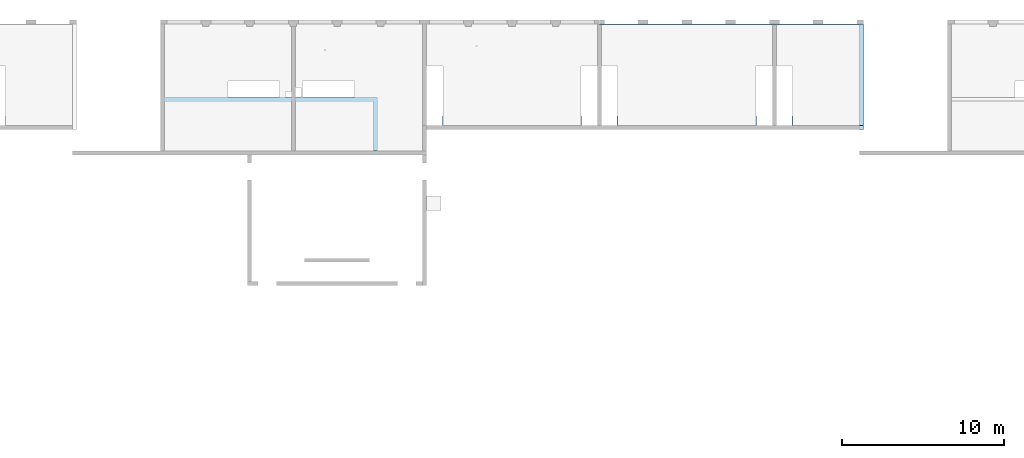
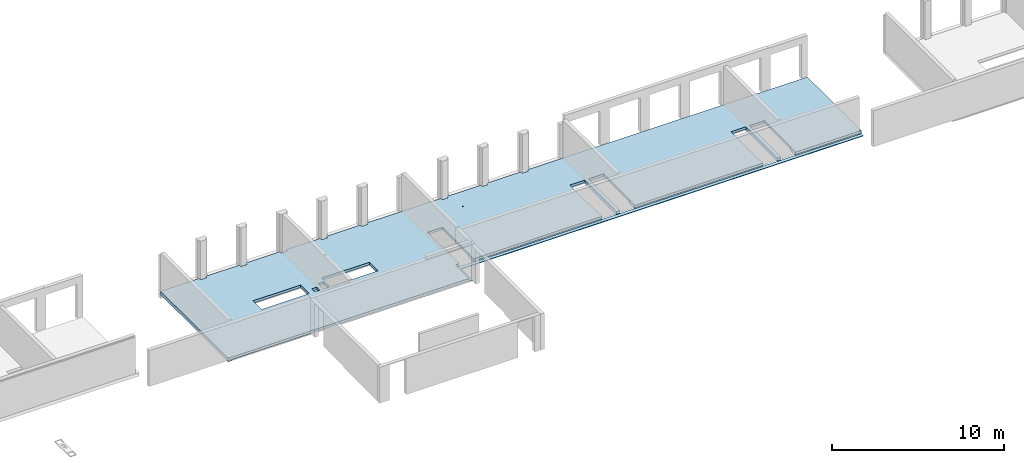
# One storey, part 10 of 12: 1 slab.
"""IFC2X3 building model written with IfcOpenShell, lengths in millimetres."""

import ifcopenshell
import ifcopenshell.guid

model = None  # the IFC model being written
_history = None  # IfcOwnerHistory: only IFC2X3 demands one
_inside = {}  # id of a spatial element -> (the spatial element, [elements in it])
_under = {}  # id of a project, library or spatial element -> (it, [spatial elements below it])
_declared = {}  # id of a project -> (the project, [libraries it declares])
_typed = {}  # id of a type object -> (the type object, [elements of that type])
_made_of = {}  # id of a material, layer set ... -> (it, [elements and type objects made of it])


def new_model(schema):
    """Start an empty IFC model of exactly this schema.

    Asked for "IFC4X3", IfcOpenShell would pick the latest addendum, in which some entities
    have other attributes; the version numbers below select the first issue.
    IFC2X3 requires an IfcOwnerHistory on every rooted entity: one is made here for all.
    """
    global model, _history
    if schema == "IFC4X3":
        model = ifcopenshell.file(schema_version=(4, 3, 0, 0))
    else:
        model = ifcopenshell.file(schema=schema)
    _inside.clear()
    _under.clear()
    _declared.clear()
    _typed.clear()
    _made_of.clear()
    _history = None
    if model.schema == "IFC2X3":
        org = make("IfcOrganization", Name="unknown")
        user = make(
            "IfcPersonAndOrganization",
            ThePerson=make("IfcPerson", FamilyName="unknown"),
            TheOrganization=org,
        )
        app = make(
            "IfcApplication",
            ApplicationDeveloper=org,
            Version="unknown",
            ApplicationFullName="unknown",
            ApplicationIdentifier="unknown",
        )
        _history = make(
            "IfcOwnerHistory",
            OwningUser=user,
            OwningApplication=app,
            ChangeAction="ADDED",
            CreationDate=0,
        )
    return model


def make(cls, **values):
    """One entity of the class cls with the attributes given. An attribute that is None is left unset."""
    return model.create_entity(
        cls, **{name: value for name, value in values.items() if value is not None}
    )


def entity(cls, *values):
    """Any entity or typed value of the class cls, its attributes in the order of the schema. None: left unset."""
    e = model.create_entity(cls)
    for i, value in enumerate(values):
        if value is not None:
            e[i] = value
    return e


def rooted(cls, **values):
    """An entity with a GlobalId (a new one), such as an element, a storey or a relation."""
    return make(cls, GlobalId=ifcopenshell.guid.new(), OwnerHistory=_history, **values)


def si_unit(unit_type, name, prefix=None):
    """IfcSIUnit, for example si_unit("LENGTHUNIT", "METRE", prefix="MILLI")."""
    return make("IfcSIUnit", UnitType=unit_type, Prefix=prefix, Name=name)


def converted_unit(unit_type, name, factor, base, dimensions=None, offset=None):
    """IfcConversionBasedUnit, such as the inch: factor (a typed value) times the base unit."""
    return make(
        "IfcConversionBasedUnit"
        if offset is None
        else "IfcConversionBasedUnitWithOffset",
        ConversionOffset=offset,
        Dimensions=None
        if dimensions is None
        else entity("IfcDimensionalExponents", *dimensions),
        UnitType=unit_type,
        Name=name,
        ConversionFactor=make(
            "IfcMeasureWithUnit", ValueComponent=factor, UnitComponent=base
        ),
    )


def derived_unit(unit_type, elements):
    """IfcDerivedUnit: a product of units, each with its exponent."""
    return make(
        "IfcDerivedUnit",
        Elements=[
            make("IfcDerivedUnitElement", Unit=unit, Exponent=power)
            for unit, power in elements
        ],
        UnitType=unit_type,
    )


def assignment(units):
    """IfcUnitAssignment: the units of a project."""
    return None if units is None else make("IfcUnitAssignment", Units=units)


def point(xyz):
    """IfcCartesianPoint."""
    return None if xyz is None else make("IfcCartesianPoint", Coordinates=xyz)


def direction(xyz):
    """IfcDirection."""
    return None if xyz is None else make("IfcDirection", DirectionRatios=xyz)


def frame(location, z_axis=None, x_axis=None):
    """IfcAxis2Placement3D, a coordinate frame: its origin and axes. An axis left out is left unset."""
    return make(
        "IfcAxis2Placement3D",
        Location=point(location),
        Axis=direction(z_axis),
        RefDirection=direction(x_axis),
    )


def origin():
    """The frame at (0, 0, 0) with its axes left unset."""
    return frame((0.0, 0.0, 0.0))


def place(relative_to, where):
    """IfcLocalPlacement: puts the frame where relative to a parent placement (None: the world)."""
    return make(
        "IfcLocalPlacement", PlacementRelTo=relative_to, RelativePlacement=where
    )


def context(
    kind, dimensions, precision=None, world=None, true_north=None, identifier=None
):
    """IfcGeometricRepresentationContext, for example the 3D "Model" context."""
    return make(
        "IfcGeometricRepresentationContext",
        ContextIdentifier=identifier,
        ContextType=kind,
        CoordinateSpaceDimension=dimensions,
        Precision=precision,
        WorldCoordinateSystem=world,
        TrueNorth=true_north,
    )


def subcontext(parent, identifier, kind, view, scale=None):
    """IfcGeometricRepresentationSubContext, for example "Body" below "Model"."""
    return make(
        "IfcGeometricRepresentationSubContext",
        ContextIdentifier=identifier,
        ContextType=kind,
        ParentContext=parent,
        TargetScale=scale,
        TargetView=view,
    )


def project(units=None, contexts=None):
    """IfcProject with its units and contexts."""
    return rooted(
        "IfcProject",
        Name="project",
        RepresentationContexts=contexts,
        UnitsInContext=assignment(units),
    )


def spatial(cls, under=None, at=None, **own):
    """A site, building, storey or space (cls), placed at a placement, below another one or the project."""
    s = rooted(cls, ObjectPlacement=at, **own)
    if under is not None:
        _under.setdefault(under.id(), (under, []))[1].append(s)
    return s


def faces_of(points, faces, orient=None, outer=None):
    """IfcFace entities. A face is a list of loops; a loop is a list of indices into points, from 0.

    orient and outer hold one flag for each loop. By default every Orientation is true, the
    first loop of a face is its IfcFaceOuterBound and the others are IfcFaceBound.
    """
    made = []
    for i, loops in enumerate(faces):
        bounds = []
        for j, loop in enumerate(loops):
            is_outer = j == 0 if outer is None else outer[i][j]
            bounds.append(
                make(
                    "IfcFaceOuterBound" if is_outer else "IfcFaceBound",
                    Bound=make("IfcPolyLoop", Polygon=[points[k] for k in loop]),
                    Orientation=True if orient is None else orient[i][j],
                )
            )
        made.append(make("IfcFace", Bounds=bounds))
    return made


def faceted_brep(points, faces, orient=None, outer=None, voids=None):
    """IfcFacetedBrep: a solid bounded by flat faces; with voids (closed shells), ...WithVoids."""
    shared = [point(p) for p in points]
    hull = make("IfcClosedShell", CfsFaces=faces_of(shared, faces, orient, outer))
    if voids is None:
        return make("IfcFacetedBrep", Outer=hull)
    return make(
        "IfcFacetedBrepWithVoids",
        Outer=hull,
        Voids=[
            make(cls, CfsFaces=faces_of(shared, fs, o, b)) for cls, fs, o, b in voids
        ],
    )


def shape(context_of_items, identifier, shape_type, items):
    """IfcShapeRepresentation: the items that make up one representation, for example the "Body"."""
    return make(
        "IfcShapeRepresentation",
        ContextOfItems=context_of_items,
        RepresentationIdentifier=identifier,
        RepresentationType=shape_type,
        Items=items,
    )


def made_of(thing, what):
    """Note that an element or type object is made of a material, layer set ...; save() writes the relation."""
    if what is not None:
        _made_of.setdefault(what.id(), (what, []))[1].append(thing)
    return thing


def element(
    cls,
    number,
    at=None,
    inside=None,
    cuts=None,
    type_object=None,
    material=None,
    context=None,
    identifier="Body",
    shape_type=None,
    held_by="IfcProductDefinitionShape",
    body=None,
    shapes=None,
    **own,
):
    """One element of the class cls, such as IfcWall. Its Tag is "e" and its number.

    at: its placement. inside: the storey or other place that contains it. cuts: it is an
    opening in that element (IfcRelVoidsElement). A single representation is given by context,
    identifier, shape_type and body (its items); several are given by shapes. held_by: the class
    of the entity that holds the representations. save() writes the other relations.
    """
    e = rooted(cls, Tag="e%d" % number, ObjectPlacement=at, **own)
    if body is not None:
        shapes = [shape(context, identifier, shape_type, body)]
    if shapes is not None:
        e.Representation = make(held_by, Representations=shapes)
    if inside is not None:
        _inside.setdefault(inside.id(), (inside, []))[1].append(e)
    if cuts is not None:
        rooted(
            "IfcRelVoidsElement", RelatingBuildingElement=cuts, RelatedOpeningElement=e
        )
    if type_object is not None:
        _typed.setdefault(type_object.id(), (type_object, []))[1].append(e)
    return made_of(e, material)


def aggregate(whole, parts):
    """IfcRelAggregates: a whole, such as a stair, and the parts it consists of."""
    return rooted("IfcRelAggregates", RelatingObject=whole, RelatedObjects=parts)


def save(model, path):
    """Write the relations noted so far, then the file.

    IfcRelAggregates (storeys below a building ...), IfcRelContainedInSpatialStructure (elements
    in a storey), IfcRelDefinesByType, IfcRelAssociatesMaterial and IfcRelDeclares: one each for
    every whole, place, type object, material and project.
    """
    for whole, parts in _under.values():
        aggregate(whole, parts)
    for where, things in _inside.values():
        rooted(
            "IfcRelContainedInSpatialStructure",
            RelatedElements=things,
            RelatingStructure=where,
        )
    for kind, things in _typed.values():
        rooted("IfcRelDefinesByType", RelatedObjects=things, RelatingType=kind)
    for what, things in _made_of.values():
        rooted("IfcRelAssociatesMaterial", RelatedObjects=things, RelatingMaterial=what)
    for by, libraries in _declared.values():
        rooted("IfcRelDeclares", RelatingContext=by, RelatedDefinitions=libraries)
    model.write(path)


model = new_model("IFC2X3")

# Units and contexts
model_context = context("Model", 3, precision=0.01, world=origin(), true_north=direction((6.12303176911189e-17, 1.0)))
body_context = subcontext(model_context, "Body", "Model", "MODEL_VIEW")
ifc_project = project(units=[si_unit("LENGTHUNIT", "METRE", prefix="MILLI"), si_unit("AREAUNIT", "SQUARE_METRE"), si_unit("VOLUMEUNIT", "CUBIC_METRE"), converted_unit("PLANEANGLEUNIT", "DEGREE", entity("IfcRatioMeasure", 0.0174532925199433), si_unit("PLANEANGLEUNIT", "RADIAN"), dimensions=[0, 0, 0, 0, 0, 0, 0]), si_unit("MASSUNIT", "GRAM", prefix="KILO"), derived_unit("MASSDENSITYUNIT", [(si_unit("MASSUNIT", "GRAM", prefix="KILO"), 1), (si_unit("LENGTHUNIT", "METRE"), -3)]), si_unit("TIMEUNIT", "SECOND"), si_unit("FREQUENCYUNIT", "HERTZ"), si_unit("THERMODYNAMICTEMPERATUREUNIT", "DEGREE_CELSIUS"), derived_unit("THERMALTRANSMITTANCEUNIT", [(si_unit("MASSUNIT", "GRAM", prefix="KILO"), 1), (si_unit("THERMODYNAMICTEMPERATUREUNIT", "KELVIN"), -1), (si_unit("TIMEUNIT", "SECOND"), -3)]), derived_unit("VOLUMETRICFLOWRATEUNIT", [(si_unit("LENGTHUNIT", "METRE"), 3), (si_unit("TIMEUNIT", "SECOND"), -1)]), si_unit("ELECTRICCURRENTUNIT", "AMPERE"), si_unit("ELECTRICVOLTAGEUNIT", "VOLT"), si_unit("POWERUNIT", "WATT"), si_unit("FORCEUNIT", "NEWTON", prefix="KILO"), si_unit("ILLUMINANCEUNIT", "LUX"), si_unit("LUMINOUSFLUXUNIT", "LUMEN"), si_unit("LUMINOUSINTENSITYUNIT", "CANDELA"), derived_unit("USERDEFINED", [(si_unit("MASSUNIT", "GRAM", prefix="KILO"), -1), (si_unit("LENGTHUNIT", "METRE"), -2), (si_unit("TIMEUNIT", "SECOND"), 3), (si_unit("LUMINOUSFLUXUNIT", "LUMEN"), 1)]), derived_unit("LINEARVELOCITYUNIT", [(si_unit("LENGTHUNIT", "METRE"), 1), (si_unit("TIMEUNIT", "SECOND"), -1)]), si_unit("PRESSUREUNIT", "PASCAL"), derived_unit("USERDEFINED", [(si_unit("LENGTHUNIT", "METRE"), -2), (si_unit("MASSUNIT", "GRAM", prefix="KILO"), 1), (si_unit("TIMEUNIT", "SECOND"), -2)])], contexts=[model_context])

# Site, building, storey
site_placement = place(None, origin())
site = spatial("IfcSite", under=ifc_project, at=site_placement, Name="Default", CompositionType="ELEMENT")
building_placement = place(site_placement, origin())
building = spatial("IfcBuilding", under=site, at=building_placement, Name="niet gebruiken", CompositionType="ELEMENT")
storey_placement = place(building_placement, frame((0.0, 0.0, 6660.0)))
storey = spatial("IfcBuildingStorey", under=building, at=storey_placement, Name="02 tweede verdieping", CompositionType="ELEMENT", Elevation=6660.00000000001)

# Slab
slab_placement = place(storey_placement, origin())
element("IfcSlab", 1, at=slab_placement, inside=storey, Name="Floor:NLRS_23.21_FL_breedplaat d=70/250_schil apart_gen", ObjectType="Floor:NLRS_23.21_FL_breedplaat d=70/250_schil apart_gen", PredefinedType="FLOOR", context=body_context, shape_type="Brep", body=[
    faceted_brep([(40605.0, 52846.0, -340.0), (40605.0, 48826.0, -340.0), (40625.0, 48826.0, -340.0), (40625.0, 48476.0, -340.0), (40975.0, 48476.0, -340.0), (40975.0, 48456.0, -340.0), (41075.0, 48456.0, -340.0), (41075.0, 48476.0, -340.0), (44275.0, 48476.0, -340.0), (44275.0, 48456.0, -340.0), (45655.0, 48456.0, -340.0), (45655.0, 45156.0, -340.0), (45445.0, 45156.0, -340.0), (45445.0, 48246.0, -340.0), (32530.0, 48246.0, -340.0), (32530.0, 45156.0, -340.0), (32300.0, 45156.0, -340.0), (32300.0, 53006.0, -340.0), (32530.0, 53006.0, -340.0), (32530.0, 48456.0, -340.0), (36455.0, 48456.0, -340.0), (36455.0, 48476.0, -340.0), (39655.0, 48476.0, -340.0), (39655.0, 48456.0, -340.0), (40025.0, 48456.0, -340.0), (40025.0, 48476.0, -340.0), (40375.0, 48476.0, -340.0), (40375.0, 48826.0, -340.0), (40395.0, 48826.0, -340.0), (40395.0, 52846.0, -340.0), (75700.0, 53006.0, -340.0), (75700.0, 52986.0, -340.0), (75470.0, 52986.0, -340.0), (70305.0, 52986.0, -340.0), (70095.0, 52986.0, -340.0), (59380.0, 53006.0, -340.0), (75470.0, 46726.0, -340.0), (75700.0, 46496.0, -340.0), (75450.0, 46496.0, -340.0), (71325.0, 46726.0, -340.0), (69075.0, 46726.0, -340.0), (60525.0, 46726.0, -340.0), (48725.0, 46496.0, -340.0), (58275.0, 46726.0, -340.0), (49725.0, 46726.0, -340.0), (49695.0, 46746.0, -340.0), (48725.0, 46746.0, -340.0), (48495.0, 45156.0, -340.0), (48725.0, 45156.0, -340.0), (48705.0, 50426.0, -340.0), (48495.0, 53006.0, -340.0), (48600.0, 53006.0, -340.0), (48705.0, 53006.0, -340.0), (48725.0, 50426.0, -340.0), (49725.0, 47326.0, -340.0), (49695.0, 47326.0, -340.0), (59275.0, 46746.0, -340.0), (58305.0, 46746.0, -340.0), (58275.0, 47326.0, -340.0), (58305.0, 47326.0, -340.0), (59525.0, 46746.0, -340.0), (59295.0, 50426.0, -340.0), (59275.0, 50426.0, -340.0), (59505.0, 50426.0, -340.0), (59505.0, 52986.0, -340.0), (59295.0, 53006.0, -340.0), (59525.0, 50426.0, -340.0), (60495.0, 46746.0, -340.0), (60525.0, 47326.0, -340.0), (60495.0, 47326.0, -340.0), (70075.0, 46746.0, -340.0), (69105.0, 46746.0, -340.0), (69075.0, 47326.0, -340.0), (69105.0, 47326.0, -340.0), (70325.0, 46746.0, -340.0), (70305.0, 50426.0, -340.0), (70095.0, 50426.0, -340.0), (70075.0, 50426.0, -340.0), (70325.0, 50426.0, -340.0), (71295.0, 46746.0, -340.0), (71325.0, 47326.0, -340.0), (71295.0, 47326.0, -340.0), (45655.0, 45156.0, -270.0), (48474.9998491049, 45156.0, -270.0), (48474.9998491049, 45156.0, -140.0), (48474.9998491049, 45156.0, -90.0), (32300.0, 45156.0, -90.0), (32530.0, 45156.0, -300.0), (32530.0, 45156.0, -270.0), (37674.9998491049, 45156.0, -270.0), (40924.9998491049, 45156.0, -270.0), (45445.0, 45156.0, -270.0), (48725.0, 45156.0, -300.0), (48705.0, 45156.0, -300.0), (48495.0, 45156.0, -300.0), (71325.0, 46746.0, -270.0), (75470.0, 46746.0, -270.0), (75470.0, 46746.0, -300.0), (75700.0, 46746.0, -300.0), (75700.0, 46746.0, -90.0), (74640.0, 46746.0, -90.0), (74440.0, 46746.0, -90.0), (71295.0, 46746.0, -90.0), (71295.0, 46746.0, -300.0), (71325.0, 46746.0, -300.0), (70075.0, 46746.0, -90.0), (70075.0, 46746.0, -300.0), (70325.0, 46746.0, -300.0), (70325.0, 46746.0, -90.0), (60525.0, 46746.0, -300.0), (60525.0, 46746.0, -270.0), (69075.0, 46746.0, -270.0), (69075.0, 46746.0, -300.0), (69105.0, 46746.0, -300.0), (69105.0, 46746.0, -90.0), (65935.0, 46746.0, -90.0), (65735.0, 46746.0, -90.0), (63865.0, 46746.0, -90.0), (63665.0, 46746.0, -90.0), (60495.0, 46746.0, -90.0), (60495.0, 46746.0, -300.0), (59275.0, 46746.0, -90.0), (59275.0, 46746.0, -300.0), (59525.0, 46746.0, -300.0), (59525.0, 46746.0, -90.0), (49725.0, 46746.0, -300.0), (49725.0, 46746.0, -270.0), (58275.0, 46746.0, -270.0), (58275.0, 46746.0, -300.0), (58305.0, 46746.0, -300.0), (58305.0, 46746.0, -90.0), (55135.0, 46746.0, -90.0), (54935.0, 46746.0, -90.0), (53065.0, 46746.0, -90.0), (52865.0, 46746.0, -90.0), (49695.0, 46746.0, -90.0), (49695.0, 46746.0, -300.0), (48495.0, 46746.0, -300.0), (48725.0, 46746.0, -300.0), (48725.0, 46746.0, -90.0), (48474.9998491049, 46746.0, -90.0), (48474.9998491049, 46746.0, -270.0), (48495.0, 46746.0, -270.0), (71325.0, 47326.0, -90.0), (71325.0, 50426.0, -90.0), (60525.0, 50426.0, -90.0), (69075.0, 50426.0, -90.0), (60525.0, 47326.0, -90.0), (69075.0, 47326.0, -90.0), (75700.0, 52986.0, -90.0), (70325.0, 50426.0, -90.0), (71295.0, 47326.0, -90.0), (69105.0, 47326.0, -90.0), (59525.0, 50426.0, -90.0), (59275.0, 50426.0, -90.0), (60495.0, 47326.0, -90.0), (70075.0, 50426.0, -90.0), (54205.0, 52846.0, -90.0), (58275.0, 47326.0, -90.0), (58275.0, 50426.0, -90.0), (58305.0, 47326.0, -90.0), (51818.7499999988, 51623.5240473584, -90.0), (49725.0, 47326.0, -90.0), (49695.0, 47326.0, -90.0), (49725.0, 50426.0, -90.0), (48725.0, 50426.0, -90.0), (40375.0, 48476.0, -90.0), (40625.0, 48476.0, -90.0), (39655.0, 48476.0, -90.0), (40025.0, 48476.0, -90.0), (40025.0, 48826.0, -90.0), (36455.0, 48476.0, -90.0), (44275.0, 48476.0, -90.0), (36455.0, 49476.0, -90.0), (40975.0, 49083.0, -90.0), (41075.0, 48476.0, -90.0), (41075.0, 49476.0, -90.0), (40975.0, 48476.0, -90.0), (44275.0, 49476.0, -90.0), (48600.0, 53006.0, -90.0), (42468.7499999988, 51373.5240473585, -90.0), (40295.0, 52846.0, -90.0), (39655.0, 49476.0, -90.0), (40625.0, 49083.0, -90.0), (40375.0, 48826.0, -90.0), (38005.0, 52846.0, -90.0), (46105.0, 52846.0, -90.0), (32300.0, 53006.0, -90.0), (59380.0, 53006.0, -90.0), (56495.0, 52846.0, -90.0), (75700.0, 53006.0, -90.0), (53795.0, 52846.0, -90.0), (51837.4999999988, 51656.0, -90.0), (51833.7878063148, 51649.5702919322, -90.0), (51809.3749999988, 51623.5240473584, -90.0), (51505.0, 52846.0, -90.0), (51781.2499999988, 51688.4759526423, -90.0), (51790.6249999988, 51688.4759526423, -90.0), (51095.0, 52846.0, -90.0), (51762.4999999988, 51656.0, -90.0), (51766.2121936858, 51662.4297080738, -90.0), (51818.7499999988, 51688.4759526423, -90.0), (51823.4374999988, 51680.3569644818, -90.0), (51781.2499999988, 51623.5240473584, -90.0), (51776.5624999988, 51631.6430355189, -90.0), (56905.0, 52846.0, -90.0), (56905.0, 53006.0, -90.0), (56495.0, 53006.0, -90.0), (54205.0, 53006.0, -90.0), (53795.0, 53006.0, -90.0), (51505.0, 53006.0, -90.0), (51095.0, 53006.0, -90.0), (42487.4999999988, 51406.0, -90.0), (42483.7878063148, 51399.5702919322, -90.0), (43405.0, 52846.0, -90.0), (42468.7499999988, 51438.4759526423, -90.0), (42473.4374999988, 51430.3569644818, -90.0), (42995.0, 52846.0, -90.0), (45695.0, 52846.0, -90.0), (45695.0, 53006.0, -90.0), (42431.2499999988, 51438.4759526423, -90.0), (42440.6249999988, 51438.4759526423, -90.0), (40705.0, 52846.0, -90.0), (42412.4999999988, 51406.0, -90.0), (42416.2121936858, 51412.4297080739, -90.0), (37595.0, 52846.0, -90.0), (40295.0, 53006.0, -90.0), (35305.0, 52846.0, -90.0), (42995.0, 53006.0, -90.0), (42459.3749999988, 51373.5240473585, -90.0), (43405.0, 53006.0, -90.0), (40705.0, 53006.0, -90.0), (38005.0, 53006.0, -90.0), (37595.0, 53006.0, -90.0), (34895.0, 52846.0, -90.0), (34895.0, 53006.0, -90.0), (35305.0, 53006.0, -90.0), (46105.0, 53006.0, -90.0), (42431.2499999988, 51373.5240473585, -90.0), (42426.5624999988, 51381.643035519, -90.0), (51828.1249999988, 51639.7620236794, -90.0), (51823.4374999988, 51631.6430355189, -90.0), (51800.0, 51623.5240473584, -90.0), (51790.6249999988, 51623.5240473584, -90.0), (51800.0, 51688.4759526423, -90.0), (51809.3749999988, 51688.4759526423, -90.0), (51769.9243873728, 51668.8594161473, -90.0), (51775.5871936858, 51678.6676843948, -90.0), (51828.1249999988, 51672.2379763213, -90.0), (51832.8124999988, 51664.1189881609, -90.0), (51771.8749999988, 51639.7620236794, -90.0), (51767.1874999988, 51647.8810118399, -90.0), (42478.1249999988, 51389.7620236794, -90.0), (42473.4374999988, 51381.643035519, -90.0), (42478.1249999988, 51422.2379763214, -90.0), (42482.8124999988, 51414.1189881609, -90.0), (42450.0, 51438.4759526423, -90.0), (42459.3749999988, 51438.4759526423, -90.0), (42419.9243873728, 51418.8594161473, -90.0), (42425.5871936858, 51428.6676843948, -90.0), (42450.0, 51373.5240473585, -90.0), (42440.6249999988, 51373.5240473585, -90.0), (42421.8749999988, 51389.7620236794, -90.0), (42417.1874999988, 51397.8810118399, -90.0), (32530.0, 53006.0, -270.0), (34895.0, 53006.0, -270.0), (37595.0, 53006.0, -270.0), (35305.0, 53006.0, -270.0), (40295.0, 53006.0, -270.0), (38005.0, 53006.0, -270.0), (42995.0, 53006.0, -270.0), (40705.0, 53006.0, -270.0), (45695.0, 53006.0, -270.0), (43405.0, 53006.0, -270.0), (48495.0, 53006.0, -270.0), (46105.0, 53006.0, -270.0), (51095.0, 53006.0, -270.0), (48705.0, 53006.0, -270.0), (53795.0, 53006.0, -270.0), (51505.0, 53006.0, -270.0), (56495.0, 53006.0, -270.0), (54205.0, 53006.0, -270.0), (59295.0, 53006.0, -270.0), (56905.0, 53006.0, -270.0), (48725.0, 46496.0, -300.0), (48725.0, 46056.0, -300.0), (48725.0, 50426.0, -270.0), (34895.0, 52846.0, -270.0), (35305.0, 52846.0, -270.0), (38005.0, 52846.0, -270.0), (37595.0, 52846.0, -270.0), (40605.0, 52846.0, -270.0), (40395.0, 52846.0, -270.0), (40295.0, 52846.0, -270.0), (40705.0, 52846.0, -270.0), (43405.0, 52846.0, -270.0), (42995.0, 52846.0, -270.0), (46105.0, 52846.0, -270.0), (45695.0, 52846.0, -270.0), (51505.0, 52846.0, -270.0), (51095.0, 52846.0, -270.0), (54205.0, 52846.0, -270.0), (53795.0, 52846.0, -270.0), (56905.0, 52846.0, -270.0), (56495.0, 52846.0, -270.0), (75700.0, 46496.0, -300.0), (36455.0, 49476.0, -270.0), (39655.0, 49476.0, -270.0), (41075.0, 49476.0, -270.0), (44275.0, 49476.0, -270.0), (39655.0, 48476.0, -270.0), (36455.0, 48476.0, -270.0), (44275.0, 48476.0, -270.0), (41075.0, 48476.0, -270.0), (40025.0, 48476.0, -270.0), (40975.0, 48476.0, -270.0), (59275.0, 50426.0, -270.0), (59525.0, 50426.0, -270.0), (70075.0, 50426.0, -270.0), (70325.0, 50426.0, -270.0), (49725.0, 50426.0, -270.0), (60525.0, 50426.0, -270.0), (58275.0, 50426.0, -270.0), (71325.0, 50426.0, -270.0), (69075.0, 50426.0, -270.0), (49725.0, 47326.0, -270.0), (60525.0, 47326.0, -270.0), (58275.0, 47326.0, -270.0), (71325.0, 47326.0, -270.0), (69075.0, 47326.0, -270.0), (40025.0, 48826.0, -270.0), (40375.0, 48826.0, -270.0), (51818.7499999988, 51623.5240473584, -270.0), (51823.4374999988, 51631.6430355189, -270.0), (51809.3749999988, 51623.5240473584, -270.0), (51828.1249999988, 51639.7620236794, -270.0), (51832.8124999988, 51647.8810118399, -270.0), (51837.4999999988, 51656.0, -270.0), (51833.7878062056, 51662.4297082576, -270.0), (51830.0756124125, 51668.8594165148, -270.0), (51824.4128062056, 51678.6676845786, -270.0), (51818.7499999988, 51688.4759526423, -270.0), (51809.3749999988, 51688.4759526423, -270.0), (51800.0, 51688.4759526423, -270.0), (51790.6249999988, 51688.4759526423, -270.0), (51781.2499999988, 51688.4759526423, -270.0), (51776.5624999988, 51680.3569644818, -270.0), (51771.8749999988, 51672.2379763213, -270.0), (51767.1874999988, 51664.1189881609, -270.0), (51762.4999999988, 51656.0, -270.0), (51766.2121936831, 51649.5702919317, -270.0), (51769.9243873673, 51643.140583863, -270.0), (51775.5871936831, 51633.3323156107, -270.0), (51781.2499999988, 51623.5240473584, -270.0), (51790.6249999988, 51623.5240473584, -270.0), (51800.0, 51623.5240473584, -270.0), (48705.0, 50426.0, -270.0), (59295.0, 50426.0, -270.0), (59505.0, 50426.0, -270.0), (59505.0, 52986.0, -270.0), (70095.0, 52986.0, -270.0), (70095.0, 50426.0, -270.0), (70305.0, 50426.0, -270.0), (70305.0, 52986.0, -270.0), (75470.0, 52986.0, -270.0), (39655.0, 48456.0, -270.0), (36455.0, 48456.0, -270.0), (32530.0, 48456.0, -270.0), (40395.0, 48826.0, -270.0), (40025.0, 48456.0, -270.0), (45655.0, 48456.0, -270.0), (44275.0, 48456.0, -270.0), (42487.4999999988, 51406.0, -270.0), (42482.8124999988, 51397.8810118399, -270.0), (42478.1249999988, 51389.7620236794, -270.0), (42473.4374999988, 51381.643035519, -270.0), (42468.7499999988, 51373.5240473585, -270.0), (42459.3749999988, 51373.5240473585, -270.0), (42450.0, 51373.5240473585, -270.0), (42440.6249999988, 51373.5240473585, -270.0), (42431.2499999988, 51373.5240473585, -270.0), (42425.5871936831, 51383.3323156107, -270.0), (42419.9243873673, 51393.140583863, -270.0), (42416.212193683, 51399.5702919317, -270.0), (42412.4999999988, 51406.0, -270.0), (40625.0, 49083.0, -270.0), (40975.0, 49083.0, -270.0), (41075.0, 48456.0, -270.0), (40975.0, 48456.0, -270.0), (40605.0, 48826.0, -270.0), (40625.0, 48826.0, -270.0), (42417.1874999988, 51414.1189881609, -270.0), (42421.8749999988, 51422.2379763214, -270.0), (42426.5624999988, 51430.3569644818, -270.0), (42431.2499999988, 51438.4759526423, -270.0), (42468.7499999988, 51438.4759526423, -270.0), (42459.3749999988, 51438.4759526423, -270.0), (42450.0, 51438.4759526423, -270.0), (42440.6249999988, 51438.4759526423, -270.0), (42483.7878062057, 51412.4297082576, -270.0), (42480.0756124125, 51418.8594165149, -270.0), (42474.4128062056, 51428.6676845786, -270.0), (32530.0, 48246.0, -270.0), (45445.0, 48246.0, -270.0), (49725.0, 46726.0, -300.0), (58275.0, 46726.0, -300.0), (69075.0, 46726.0, -300.0), (60525.0, 46726.0, -300.0), (75470.0, 46726.0, -300.0), (71325.0, 46726.0, -300.0)], [[[0, 1, 2, 3, 4, 5, 6, 7, 8, 9, 10, 11, 12, 13, 14, 15, 16, 17, 18, 19, 20, 21, 22, 23, 24, 25, 26, 27, 28, 29]], [[0, 1, 29]], [[29, 1, 28]], [[28, 1, 26]], [[1, 3, 26]], [[2, 3, 1]], [[26, 3, 5]], [[5, 3, 4]], [[26, 5, 24]], [[13, 24, 5]], [[13, 5, 6]], [[9, 13, 6]], [[8, 9, 6]], [[7, 8, 6]], [[13, 9, 10]], [[10, 11, 13]], [[12, 13, 11]], [[24, 13, 23]], [[23, 13, 14]], [[23, 14, 20]], [[14, 19, 20]], [[19, 14, 16]], [[15, 16, 14]], [[19, 16, 17]], [[18, 19, 17]], [[22, 23, 20]], [[20, 21, 22]], [[24, 25, 26]], [[27, 28, 26]], [[30, 31, 32]], [[30, 32, 33]], [[33, 34, 30]], [[30, 34, 35]], [[32, 31, 36]], [[37, 36, 31]], [[36, 37, 38]], [[36, 38, 39]], [[40, 39, 38]], [[41, 40, 38]], [[41, 38, 42]], [[42, 43, 41]], [[43, 42, 44]], [[45, 44, 42]], [[42, 46, 45]], [[46, 42, 47]], [[48, 47, 42]], [[46, 47, 49]], [[50, 49, 47]], [[50, 51, 49]], [[49, 51, 52]], [[46, 49, 53]], [[54, 44, 45]], [[55, 54, 45]], [[41, 43, 56]], [[56, 43, 57]], [[58, 57, 43]], [[57, 58, 59]], [[60, 41, 56]], [[61, 60, 56]], [[56, 62, 61]], [[63, 60, 61]], [[63, 61, 64]], [[61, 65, 64]], [[65, 35, 64]], [[64, 35, 34]], [[60, 63, 66]], [[67, 41, 60]], [[41, 67, 68]], [[68, 67, 69]], [[40, 70, 39]], [[71, 70, 40]], [[71, 40, 72]], [[72, 73, 71]], [[74, 39, 70]], [[70, 75, 74]], [[70, 76, 75]], [[77, 76, 70]], [[75, 76, 34]], [[34, 33, 75]], [[75, 78, 74]], [[74, 79, 39]], [[80, 39, 79]], [[79, 81, 80]], [[12, 11, 82, 83, 84, 85, 86, 16, 15, 87, 88, 89, 90, 91]], [[47, 48, 92, 93, 94]], [[95, 96, 97, 98, 99, 100, 101, 102, 103, 104]], [[105, 106, 107, 108]], [[109, 110, 111, 112, 113, 114, 115, 116, 117, 118, 119, 120]], [[121, 122, 123, 124]], [[125, 126, 127, 128, 129, 130, 131, 132, 133, 134, 135, 136]], [[137, 138, 139, 140, 141, 142]], [[102, 101, 143]], [[144, 143, 101]], [[145, 118, 117]], [[117, 116, 146]], [[147, 119, 118]], [[118, 145, 147]], [[148, 115, 114]], [[149, 101, 100]], [[108, 150, 105]], [[151, 102, 143]], [[152, 148, 114]], [[146, 116, 115]], [[121, 153, 154]], [[148, 146, 115]], [[155, 119, 147]], [[150, 156, 105]], [[121, 124, 153]], [[132, 131, 157]], [[158, 131, 130]], [[158, 159, 131]], [[157, 131, 159]], [[160, 158, 130]], [[161, 133, 132]], [[149, 100, 99]], [[162, 135, 134]], [[162, 163, 135]], [[161, 164, 134]], [[140, 139, 165]], [[164, 162, 134]], [[166, 86, 85]], [[167, 166, 85]], [[168, 169, 170]], [[166, 169, 86]], [[168, 171, 86]], [[169, 168, 86]], [[172, 85, 140]], [[86, 171, 173]], [[174, 175, 176]], [[172, 175, 85]], [[175, 174, 177]], [[165, 178, 172]], [[179, 165, 164]], [[180, 176, 178]], [[176, 181, 182]], [[172, 140, 165]], [[174, 176, 183]], [[177, 167, 85]], [[182, 168, 170]], [[183, 182, 170]], [[183, 184, 167]], [[185, 173, 182]], [[183, 176, 182]], [[170, 184, 183]], [[166, 167, 184]], [[165, 186, 178]], [[175, 177, 85]], [[161, 134, 133]], [[86, 173, 187]], [[188, 159, 154]], [[117, 146, 145]], [[188, 153, 145]], [[159, 189, 157]], [[190, 156, 150]], [[190, 146, 156]], [[188, 145, 146]], [[191, 192, 193]], [[164, 161, 194]], [[195, 196, 197]], [[198, 199, 200]], [[157, 191, 161]], [[191, 201, 202]], [[132, 157, 161]], [[198, 164, 199]], [[150, 144, 190]], [[164, 203, 204]], [[189, 159, 205]], [[144, 149, 190]], [[159, 188, 205]], [[206, 205, 188]], [[146, 190, 188]], [[189, 207, 208]], [[209, 195, 191]], [[195, 198, 196]], [[191, 195, 201]], [[209, 210, 195]], [[198, 211, 179]], [[208, 157, 189]], [[144, 101, 149]], [[198, 179, 164]], [[178, 212, 213]], [[214, 215, 216]], [[214, 212, 178]], [[217, 215, 214]], [[218, 219, 214]], [[214, 178, 218]], [[218, 178, 186]], [[217, 220, 221]], [[222, 223, 224]], [[222, 176, 223]], [[185, 182, 181]], [[173, 185, 225]], [[181, 226, 185]], [[222, 181, 176]], [[220, 217, 222]], [[225, 227, 173]], [[217, 228, 222]], [[176, 180, 229]], [[214, 219, 230]], [[228, 231, 222]], [[226, 232, 185]], [[227, 225, 233]], [[234, 173, 227]], [[187, 234, 235]], [[227, 233, 236]], [[187, 173, 234]], [[237, 186, 179]], [[179, 186, 165]], [[176, 238, 239]], [[188, 154, 153]], [[191, 193, 240]], [[191, 240, 241]], [[191, 241, 161]], [[164, 194, 242]], [[164, 242, 243]], [[164, 243, 203]], [[195, 197, 244]], [[195, 244, 245]], [[195, 245, 201]], [[198, 200, 246]], [[198, 246, 247]], [[198, 247, 196]], [[191, 202, 248]], [[191, 248, 249]], [[191, 249, 192]], [[164, 204, 250]], [[164, 250, 251]], [[164, 251, 199]], [[178, 213, 252]], [[178, 252, 253]], [[178, 253, 180]], [[214, 216, 254]], [[214, 254, 255]], [[214, 255, 212]], [[217, 221, 256]], [[217, 256, 257]], [[217, 257, 215]], [[222, 224, 258]], [[222, 258, 259]], [[222, 259, 220]], [[176, 229, 260]], [[176, 260, 261]], [[176, 261, 238]], [[176, 239, 262]], [[176, 262, 263]], [[176, 263, 223]], [[17, 16, 86, 187]], [[264, 18, 17, 187, 235, 265]], [[266, 267, 236, 233]], [[268, 269, 232, 226]], [[270, 271, 231, 228]], [[272, 273, 230, 219]], [[274, 275, 237, 179, 211, 276, 277, 52, 51, 50]], [[278, 279, 210, 209]], [[280, 281, 208, 207]], [[35, 65, 282, 283, 206, 188, 190, 30]], [[48, 42, 284, 285, 92]], [[165, 139, 138, 46, 53, 286]], [[287, 265, 235, 234]], [[288, 287, 234, 227]], [[289, 290, 225, 185]], [[291, 0, 29, 292, 293, 181, 222, 294]], [[295, 296, 217, 214]], [[297, 298, 218, 186]], [[299, 300, 198, 195]], [[301, 302, 191, 157]], [[303, 304, 189, 205]], [[267, 288, 227, 236]], [[290, 266, 233, 225]], [[269, 289, 185, 232]], [[293, 268, 226, 181]], [[271, 294, 222, 231]], [[296, 270, 228, 217]], [[273, 295, 214, 230]], [[298, 272, 219, 218]], [[275, 297, 186, 237]], [[300, 276, 211, 198]], [[279, 299, 195, 210]], [[302, 278, 209, 191]], [[281, 301, 157, 208]], [[304, 280, 207, 189]], [[283, 303, 205, 206]], [[98, 305, 37, 31, 30, 190, 149, 99]], [[38, 37, 305, 284, 42]], [[182, 173, 306, 307]], [[178, 176, 308, 309]], [[168, 182, 307, 310]], [[171, 168, 310, 22, 21, 311]], [[175, 172, 312, 8, 7, 313]], [[314, 169, 166, 26, 25]], [[167, 177, 315, 4, 3]], [[173, 171, 311, 306]], [[172, 178, 309, 312]], [[176, 175, 313, 308]], [[135, 163, 55, 45, 136]], [[138, 136, 45, 46]], [[129, 122, 56, 57]], [[123, 120, 67, 60]], [[113, 106, 70, 71]], [[107, 103, 79, 74]], [[121, 154, 316, 62, 56, 122]], [[160, 130, 129, 57, 59]], [[119, 155, 69, 67, 120]], [[153, 124, 123, 60, 66, 317]], [[105, 156, 318, 77, 70, 106]], [[152, 114, 113, 71, 73]], [[102, 151, 81, 79, 103]], [[150, 108, 107, 74, 78, 319]], [[286, 320, 164, 165]], [[317, 321, 145, 153]], [[322, 316, 154, 159]], [[319, 323, 144, 150]], [[324, 318, 156, 146]], [[325, 54, 55, 163, 162]], [[326, 68, 69, 155, 147]], [[327, 158, 160, 59, 58]], [[328, 80, 81, 151, 143]], [[329, 148, 152, 73, 72]], [[320, 325, 162, 164]], [[321, 326, 147, 145]], [[322, 159, 158, 327]], [[323, 328, 143, 144]], [[324, 146, 148, 329]], [[330, 331, 184, 170]], [[330, 170, 169, 314]], [[331, 27, 26, 166, 184]], [[332, 322, 327]], [[301, 322, 332]], [[332, 327, 325]], [[320, 332, 325]], [[301, 332, 302]], [[302, 332, 333]], [[320, 334, 332]], [[302, 333, 335]], [[302, 335, 336]], [[302, 336, 337]], [[302, 337, 338]], [[302, 338, 339]], [[302, 339, 340]], [[302, 340, 341]], [[299, 302, 341]], [[299, 341, 342]], [[299, 342, 343]], [[299, 343, 344]], [[299, 344, 345]], [[345, 300, 299]], [[300, 345, 346]], [[300, 346, 347]], [[300, 347, 348]], [[300, 348, 349]], [[300, 349, 320]], [[320, 349, 350]], [[320, 350, 351]], [[320, 351, 352]], [[320, 352, 353]], [[320, 353, 354]], [[320, 354, 355]], [[320, 355, 334]], [[320, 277, 300]], [[277, 320, 286]], [[286, 356, 277]], [[276, 300, 277]], [[278, 302, 299]], [[299, 279, 278]], [[304, 322, 301]], [[304, 301, 281]], [[304, 281, 280]], [[304, 303, 322]], [[282, 322, 303]], [[282, 303, 283]], [[316, 322, 282]], [[282, 357, 316]], [[325, 327, 126]], [[327, 127, 126]], [[326, 321, 317, 358, 359, 360, 361, 318, 324, 329, 111, 110]], [[328, 323, 319, 362, 363, 364, 96, 95]], [[365, 310, 307, 306, 311, 366, 367, 264, 265, 287, 288, 267, 266, 290, 289, 269, 268, 293, 292, 368, 331, 330, 314, 369]], [[332, 322, 327]], [[301, 322, 332]], [[332, 327, 325]], [[320, 332, 325]], [[301, 332, 302]], [[302, 332, 333]], [[320, 334, 332]], [[302, 333, 335]], [[302, 335, 336]], [[302, 336, 337]], [[302, 337, 338]], [[302, 338, 339]], [[302, 339, 340]], [[302, 340, 341]], [[299, 302, 341]], [[299, 341, 342]], [[299, 342, 343]], [[299, 343, 344]], [[299, 344, 345]], [[345, 300, 299]], [[300, 345, 346]], [[300, 346, 347]], [[300, 347, 348]], [[300, 348, 349]], [[300, 349, 320]], [[320, 349, 350]], [[320, 350, 351]], [[320, 351, 352]], [[320, 352, 353]], [[320, 353, 354]], [[320, 354, 355]], [[320, 355, 334]], [[320, 277, 300]], [[277, 320, 286]], [[286, 356, 277]], [[276, 300, 277]], [[278, 302, 299]], [[299, 279, 278]], [[304, 322, 301]], [[304, 301, 281]], [[304, 281, 280]], [[304, 303, 322]], [[282, 322, 303]], [[282, 303, 283]], [[316, 322, 282]], [[282, 357, 316]], [[325, 327, 126]], [[327, 127, 126]], [[326, 324, 329]], [[329, 110, 326]], [[324, 326, 321]], [[321, 359, 324]], [[359, 321, 317]], [[358, 359, 317]], [[324, 359, 360]], [[360, 318, 324]], [[360, 361, 318]], [[110, 329, 111]], [[328, 323, 96]], [[96, 95, 328]], [[364, 96, 323]], [[364, 323, 363]], [[319, 363, 323]], [[319, 362, 363]], [[365, 314, 369]], [[314, 365, 310]], [[330, 314, 310]], [[307, 330, 310]], [[330, 307, 331]], [[368, 331, 307]], [[307, 292, 368]], [[293, 292, 307]], [[289, 293, 307]], [[289, 307, 306]], [[306, 290, 289]], [[306, 288, 290]], [[306, 287, 288]], [[287, 306, 367]], [[367, 306, 311]], [[366, 367, 311]], [[367, 264, 287]], [[287, 264, 265]], [[266, 290, 288]], [[288, 267, 266]], [[269, 293, 289]], [[268, 293, 269]], [[297, 275, 274]], [[370, 297, 274]], [[309, 297, 370]], [[309, 298, 297]], [[141, 370, 274]], [[142, 141, 274]], [[141, 82, 370]], [[82, 141, 83]], [[370, 312, 309]], [[312, 370, 371]], [[309, 295, 298]], [[372, 295, 309]], [[309, 373, 372]], [[309, 374, 373]], [[309, 375, 374]], [[309, 376, 375]], [[308, 376, 309]], [[308, 377, 376]], [[308, 378, 377]], [[308, 379, 378]], [[308, 380, 379]], [[308, 381, 380]], [[308, 382, 381]], [[308, 383, 382]], [[308, 384, 383]], [[294, 384, 308]], [[294, 308, 291]], [[385, 291, 308]], [[385, 308, 386]], [[313, 386, 308]], [[315, 386, 313]], [[313, 387, 315]], [[387, 388, 315]], [[389, 291, 385]], [[389, 385, 390]], [[294, 391, 384]], [[294, 392, 391]], [[294, 393, 392]], [[294, 394, 393]], [[294, 296, 394]], [[296, 294, 270]], [[270, 294, 271]], [[295, 395, 296]], [[296, 395, 396]], [[296, 396, 397]], [[296, 397, 398]], [[296, 398, 394]], [[295, 372, 399]], [[295, 399, 400]], [[295, 400, 401]], [[295, 401, 395]], [[295, 272, 298]], [[272, 295, 273]], [[89, 88, 402, 403, 91, 90]], [[356, 49, 52, 277]], [[356, 286, 53, 49]], [[357, 61, 62, 316]], [[317, 66, 63, 358]], [[361, 76, 77, 318]], [[362, 319, 78, 75]], [[125, 404, 44, 54, 325, 126]], [[405, 43, 44, 404]], [[406, 40, 41, 407]], [[408, 36, 39, 409]], [[282, 65, 61, 357]], [[128, 127, 327, 58, 43, 405]], [[359, 64, 34, 360]], [[363, 33, 32, 364]], [[358, 63, 64, 359]], [[109, 407, 41, 68, 326, 110]], [[360, 34, 76, 361]], [[112, 111, 329, 72, 40, 406]], [[362, 75, 33, 363]], [[104, 409, 39, 80, 328, 95]], [[97, 96, 364, 32, 36, 408]], [[177, 174, 386, 315]], [[183, 167, 3, 2, 390, 385]], [[292, 29, 28, 368]], [[368, 28, 27, 331]], [[390, 2, 1, 389]], [[314, 25, 24, 369]], [[369, 24, 23, 365]], [[366, 20, 19, 367]], [[387, 6, 5, 388]], [[370, 10, 9, 371]], [[365, 23, 22, 310]], [[311, 21, 20, 366]], [[264, 367, 19, 18]], [[87, 15, 14, 402, 88]], [[389, 1, 0, 291]], [[315, 388, 5, 4]], [[313, 7, 6, 387]], [[371, 9, 8, 312]], [[137, 142, 274, 50, 47, 94]], [[82, 11, 10, 370]], [[402, 14, 13, 403]], [[403, 13, 12, 91]], [[408, 409, 104, 103, 107, 106, 113, 112, 406, 407, 109, 120, 123, 122, 129, 128, 405, 404, 125, 136, 138, 137, 94, 93, 92, 285, 284, 305, 98, 97]], [[84, 83, 141, 140, 85]], [[352, 351, 350, 349, 199, 251, 250, 204, 203, 353]], [[242, 194, 161, 332, 334, 355, 354, 353, 203, 243]], [[332, 161, 241, 240, 193, 192, 337, 336, 335, 333]], [[249, 248, 202, 201, 341, 340, 339, 338, 337, 192]], [[245, 244, 197, 196, 345, 344, 343, 342, 341, 201]], [[345, 196, 247, 246, 200, 199, 349, 348, 347, 346]], [[381, 382, 383, 384, 223, 263, 262, 239, 238, 380]], [[260, 229, 180, 376, 377, 378, 379, 380, 238, 261]], [[376, 180, 253, 252, 213, 212, 372, 373, 374, 375]], [[255, 254, 216, 215, 395, 401, 400, 399, 372, 212]], [[257, 256, 221, 220, 394, 398, 397, 396, 395, 215]], [[394, 220, 259, 258, 224, 223, 384, 391, 392, 393]], [[174, 183, 385, 386]]]),
])

save(model, "model.ifc")
